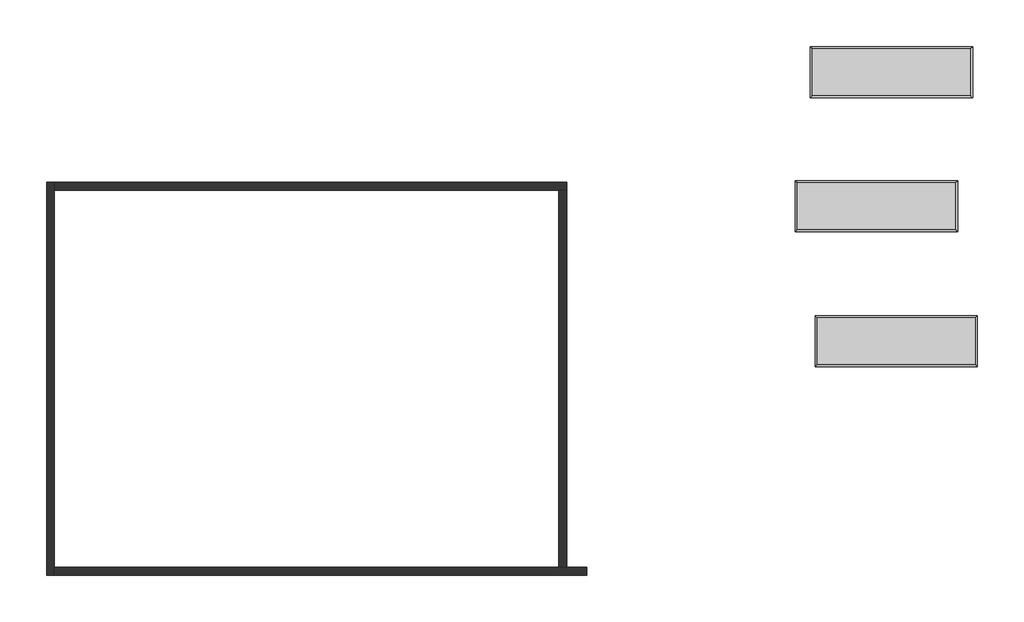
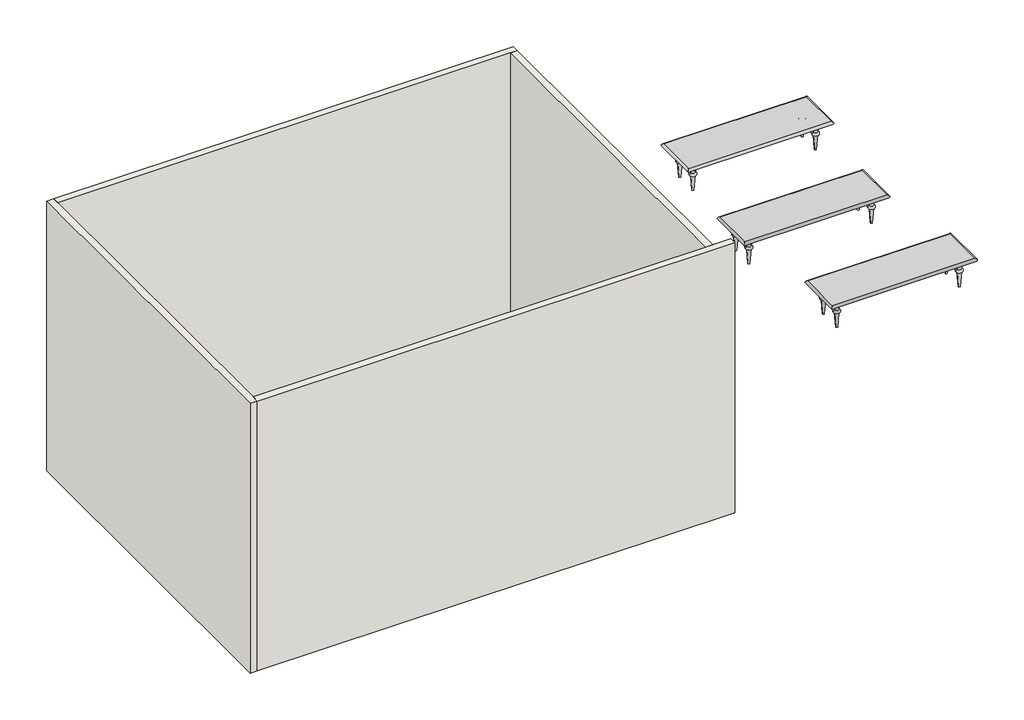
# One storey, incomplete: 4 walls, 3 furniture elements.
"""IFC4 building model written with IfcOpenShell, lengths in millimetres."""

from ifc_helpers import new_model, si_unit, origin, origin_with_axes, place, context, project, spatial, polyline, outline, extrude, faceted_brep, transform, mapped, element, save
from components import furniture_c58f78f0, furniture_e70da886

model = new_model("IFC4")

# Units and contexts
model_context = context("Model", 3, world=origin())
ifc_project = project(units=[si_unit("LENGTHUNIT", "METRE", prefix="MILLI")], contexts=[model_context])

# Site, building, storey
site = spatial("IfcSite", under=ifc_project)
building = spatial("IfcBuilding", under=site)
storey = spatial("IfcBuildingStorey", under=building, Name="Уровень 1", Elevation=0.0)

# Furniture
placement = place(None, origin())
furniture_shape = furniture_c58f78f0(model_context)
element("IfcFurniture", 1, ObjectType="1_24_Выбор типа стула : 1_24_Выбор типа стула", at=placement, inside=storey, context=model_context, shape_type="MappedRepresentation", body=[
    mapped(furniture_shape, transform((6876.6442547, 11752.0154099, 0.0), x_axis=(1.0, 0.0, 0.0), y_axis=(0.0, 1.0, 0.0), z_axis=(0.0, 0.0, 1.0))),
])
furniture_2_shape = furniture_e70da886(model_context)
element("IfcFurniture", 2, ObjectType="1_25_Ручки для опорных плоскостей : 1_25_Ручки для опорных плоскостей", at=placement, inside=storey, context=model_context, shape_type="MappedRepresentation", body=[
    mapped(furniture_2_shape, transform((6500.0940108, 8377.3011005, 0.0), x_axis=(1.0, 0.0, 0.0), y_axis=(0.0, 1.0, 0.0), z_axis=(0.0, 0.0, 1.0))),
])
element("IfcFurniture", 3, ObjectType="1_26_Добавление параметров : 1_26_Добавление параметров", at=placement, inside=storey, context=model_context, shape_type="MappedRepresentation", body=[
    mapped(furniture_2_shape, transform((7000.0940108, 4977.3011005, 0.0), x_axis=(1.0, 0.0, 0.0), y_axis=(0.0, 1.0, 0.0), z_axis=(0.0, 0.0, 1.0))),
])

# Walls
element("IfcWall", 4, ObjectType="Типовой - 200мм", at=placement, inside=storey, context=model_context, shape_type="Brep", body=[
    faceted_brep([(-14399.9059892, 8977.3011005, 0.0), (-14399.9059892, -922.6988995, 0.0), (-14399.9059892, -922.6988995, 8000.0), (-14399.9059892, 8977.3011005, 8000.0), (-14199.9059892, 8977.3011005, 0.0), (-14199.9059892, 8977.3011005, 8000.0), (-14199.9059892, 8777.3011005, 8000.0), (-14199.9059892, -722.6988995, 8000.0), (-14199.9059892, -922.6988995, 8000.0), (-14199.9059892, -922.6988995, 0.0), (-14199.9059892, -722.6988995, 0.0), (-14199.9059892, 8777.3011005, 0.0)], [[[0, 1, 2, 3]], [[4, 5, 6, 7, 8, 9, 10, 11]], [[1, 0, 4, 11, 10, 9]], [[3, 2, 8, 7, 6, 5]], [[2, 1, 9, 8]], [[0, 3, 5, 4]]]),
])
element("IfcWall", 5, ObjectType="Типовой - 200мм", at=placement, inside=storey, context=model_context, shape_type="Brep", body=[
    faceted_brep([(-14199.9059892, -922.6988995, 0.0), (-799.9059892, -922.6988995, 0.0), (-799.9059892, -922.6988995, 8000.0), (-14199.9059892, -922.6988995, 8000.0), (-14199.9059892, -722.6988995, 0.0), (-14199.9059892, -722.6988995, 8000.0), (-1499.9059892, -722.6988995, 8000.0), (-1299.9059892, -722.6988995, 8000.0), (-799.9059892, -722.6988995, 8000.0), (-799.9059892, -722.6988995, 0.0), (-1299.9059892, -722.6988995, 0.0), (-1499.9059892, -722.6988995, 0.0)], [[[0, 1, 2, 3]], [[4, 5, 6, 7, 8, 9, 10, 11]], [[1, 0, 4, 11, 10, 9]], [[2, 1, 9, 8]], [[3, 2, 8, 7, 6, 5]], [[0, 3, 5, 4]]]),
])
element("IfcWall", 6, ObjectType="Типовой - 200мм", at=placement, inside=storey, context=model_context, shape_type="Brep", body=[
    faceted_brep([(-14199.9059892, 8777.3011005, 0.0), (-1499.9059892, 8777.3011005, 0.0), (-1299.9059892, 8777.3011005, 0.0), (-1299.9059892, 8777.3011005, 8000.0), (-1499.9059892, 8777.3011005, 8000.0), (-14199.9059892, 8777.3011005, 8000.0), (-14199.9059892, 8977.3011005, 0.0), (-14199.9059892, 8977.3011005, 8000.0), (-1299.9059892, 8977.3011005, 8000.0), (-1299.9059892, 8977.3011005, 0.0)], [[[0, 1, 2, 3, 4, 5]], [[6, 7, 8, 9]], [[2, 1, 0, 6, 9]], [[5, 4, 3, 8, 7]], [[0, 5, 7, 6]], [[3, 2, 9, 8]]]),
])
element("IfcWall", 7, ObjectType="Типовой - 200мм", at=placement, inside=storey, context=model_context, shape_type="SweptSolid", body=[
    extrude(outline(polyline([(-1499.9059892, -722.6988995), (-1499.9059892, 8777.3011005), (-1299.9059892, 8777.3011005), (-1299.9059892, -722.6988995), (-1499.9059892, -722.6988995)])), origin_with_axes(), (0.0, 0.0, 1.0), 8000.0),
])

save(model, "model.ifc")
